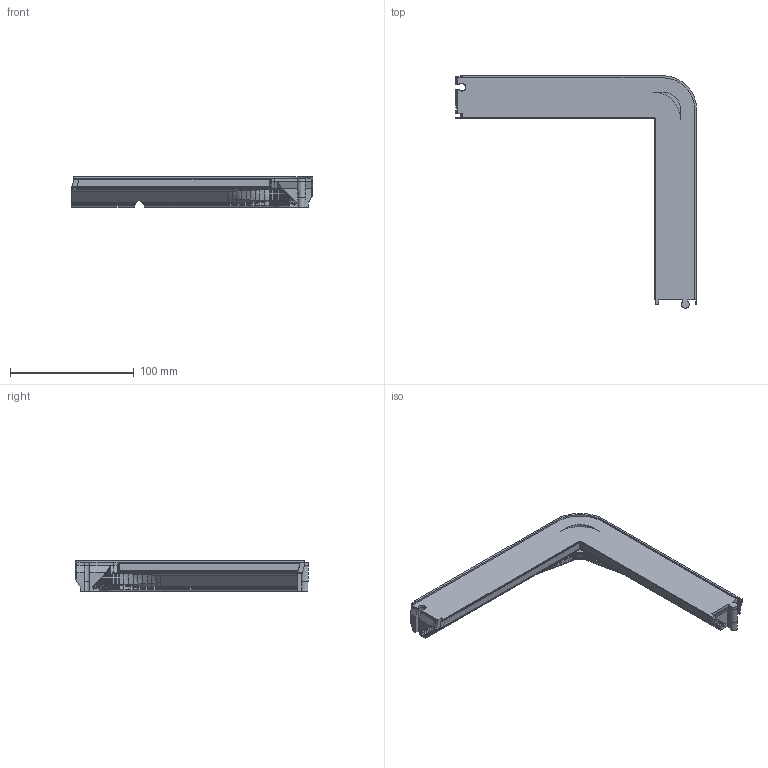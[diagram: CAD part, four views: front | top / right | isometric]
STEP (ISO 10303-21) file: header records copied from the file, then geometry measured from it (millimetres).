
FILE_DESCRIPTION(('Open CASCADE Model'),'2;1');
FILE_NAME('Open CASCADE Shape Model','2026-10-24T08:15:46',('Author'),( 'Open CASCADE'),'Open CASCADE STEP processor 8.0','build123d', 'Unknown');
FILE_SCHEMA(('AUTOMOTIVE_DESIGN { 1 0 10303 214 1 1 1 1 }'));
Products named in the file (1): SOLID
Bounding box: 195.1 x 187.88 x 25 mm (x, y, z)
Volume: 182547 mm3; surface area: 47622.7 mm2
Topology: 1 solids, 1 shells, 2265 faces, 4876 edges, 2614 vertices
Faces by surface type: bspline 1820, plane 434, cone 7, cylinder 4
Entity records: 117326 total; most frequent: CARTESIAN_POINT 30608, DIRECTION 10930, LINE 10002, VECTOR 10002, ORIENTED_EDGE 9752, PCURVE 9752, DEFINITIONAL_REPRESENTATION 9752, EDGE_CURVE 4876
